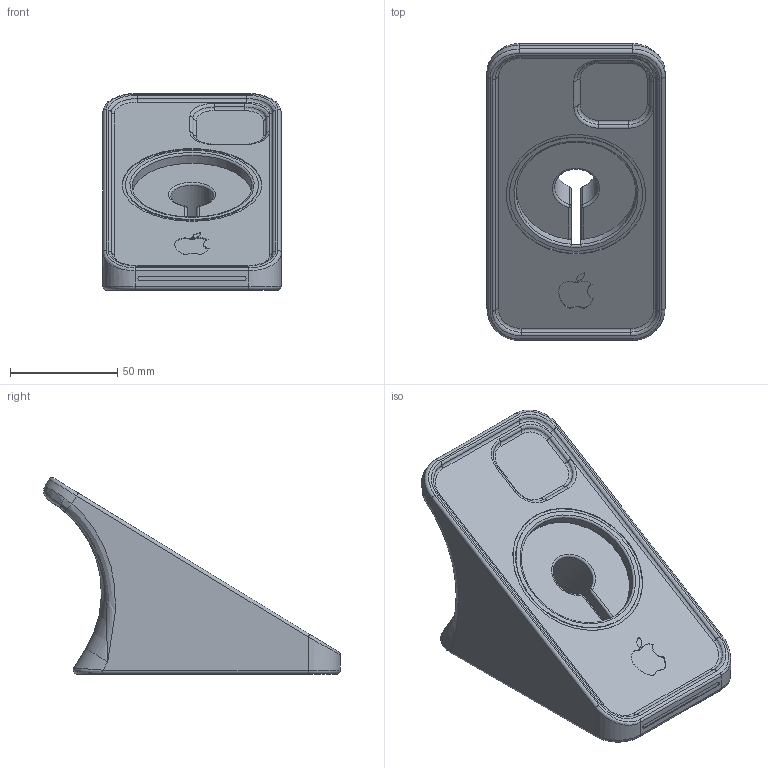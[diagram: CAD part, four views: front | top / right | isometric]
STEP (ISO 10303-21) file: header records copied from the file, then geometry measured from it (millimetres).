
FILE_DESCRIPTION(/* description */ (''),/* implementation_level */ '2;1');
FILE_NAME(/* name */ 'Iphone 12 dock v2.step',/* time_stamp */ '2023-03-13T16:55:12+01:00',/* author */ (''),/* organization */ (''),/* preprocessor_version */ 'ST-DEVELOPER v19.2',/* originating_system */ 'Autodesk Translation Framework v11.17.0.187',/* authorisation */ '');
FILE_SCHEMA (('AUTOMOTIVE_DESIGN { 1 0 10303 214 3 1 1 }'));
Length unit declared in the file: millimetre
Products named in the file (1): Iphone 12 dock
Bounding box: 83 x 138.22 x 91.7 mm (x, y, z)
Volume: 358824.3 mm3; surface area: 49675.3 mm2
Topology: 1 solids, 1 shells, 150 faces, 378 edges, 234 vertices
Faces by surface type: cylinder 72, plane 37, bspline 20, torus 19, sphere 2
Entity records: 6098 total; most frequent: CARTESIAN_POINT 2447, DIRECTION 775, ORIENTED_EDGE 752, EDGE_CURVE 376, AXIS2_PLACEMENT_3D 308, VERTEX_POINT 234, CIRCLE 160, LINE 159
